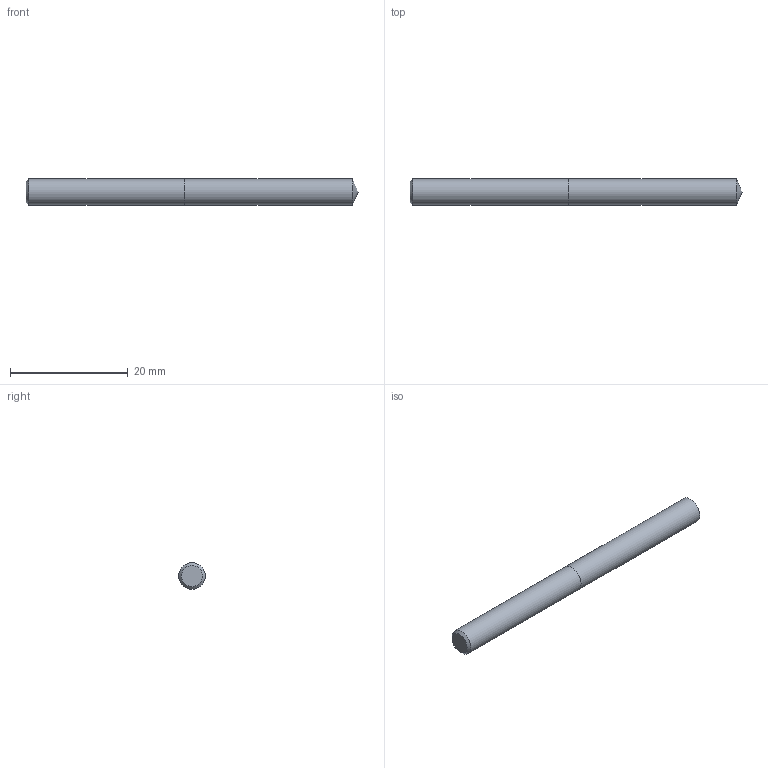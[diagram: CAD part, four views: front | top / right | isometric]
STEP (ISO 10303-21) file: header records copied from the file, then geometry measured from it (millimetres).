
FILE_DESCRIPTION (( 'STEP AP214' ), '1' );
FILE_NAME ('03-2358.STEP', '2022-06-03T06:41:25', ( 'USER' ), ( '' ), 'SwSTEP 2.0', 'SolidWorks 2018', '' );
FILE_SCHEMA (( 'AUTOMOTIVE_DESIGN' ));
Length unit declared in the file: inch
Products named in the file (1): 03-2358
Bounding box: 56.49 x 4.5 x 4.5 mm (x, y, z)
Volume: 885.6 mm3; surface area: 845.6 mm2
Topology: 2 solids, 2 shells, 7 faces, 11 edges, 7 vertices
Faces by surface type: plane 3, cylinder 2, cone 2
Full cylindrical faces by diameter (mm): 4.496 x2
Entity records: 214 total; most frequent: DIRECTION 26, CARTESIAN_POINT 18, AXIS2_PLACEMENT_3D 13, ORIENTED_EDGE 10, EDGE_LOOP 10, FACE_OUTER_BOUND 9, ADVANCED_FACE 7, LENGTH_MEASURE_WITH_UNIT 7
